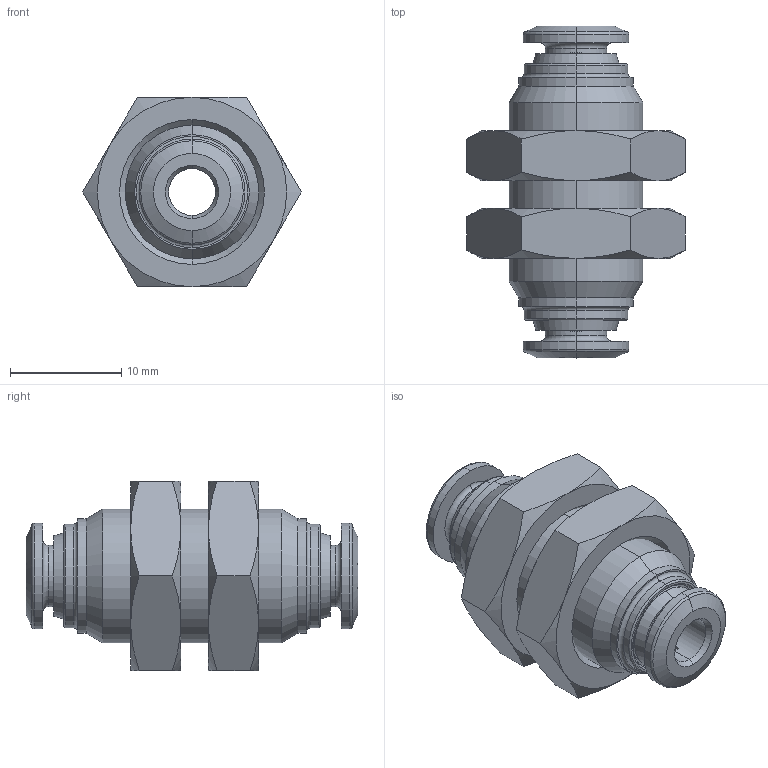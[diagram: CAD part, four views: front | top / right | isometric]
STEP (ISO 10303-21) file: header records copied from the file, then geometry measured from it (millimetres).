
FILE_DESCRIPTION (( 'STEP AP214' ), '1' );
FILE_NAME ('40050V0001A.STEP', '2016-05-16T13:49:52', ( '' ), ( '' ), 'SwSTEP 2.0', 'SolidWorks 2016', '' );
FILE_SCHEMA (( 'AUTOMOTIVE_DESIGN' ));
Length unit declared in the file: millimetre
Products named in the file (1): 40050V0001A
Bounding box: 19.63 x 29.8 x 17 mm (x, y, z)
Surface area: 2774.3 mm2 (no closed solid volume)
Topology: 0 solids, 7 shells, 138 faces, 354 edges, 224 vertices
Faces by surface type: cone 52, plane 36, cylinder 30, torus 20
Entity records: 5897 total; most frequent: CARTESIAN_POINT 1013, DIRECTION 756, ORIENTED_EDGE 624, EDGE_CURVE 354, AXIS2_PLACEMENT_3D 319, VERTEX_POINT 224, CIRCLE 180, EDGE_LOOP 154
